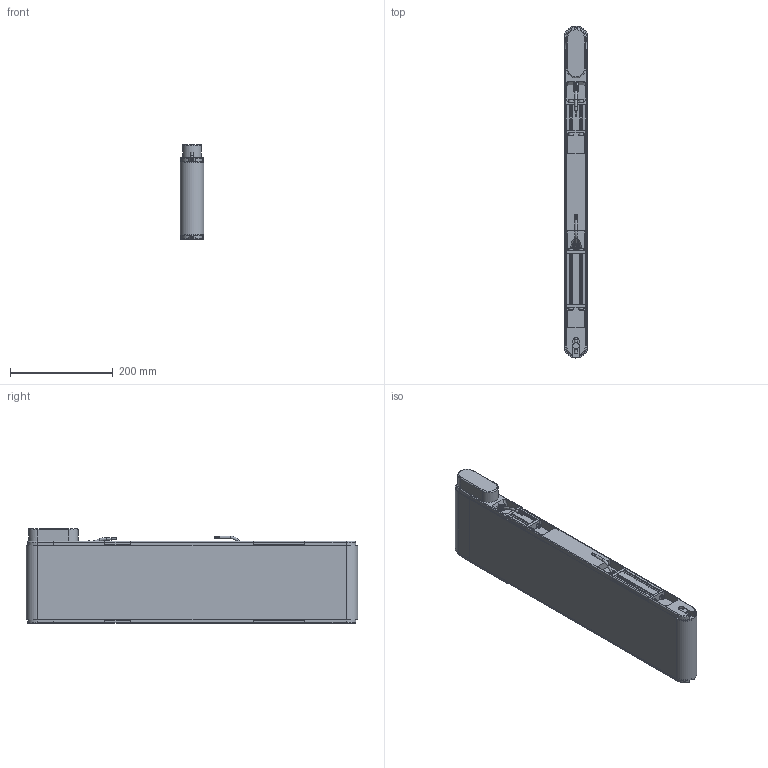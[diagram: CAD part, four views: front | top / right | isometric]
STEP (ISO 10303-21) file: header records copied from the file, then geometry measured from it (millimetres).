
FILE_DESCRIPTION(/* description */ (''),/* implementation_level */ '2;1');
FILE_NAME(/* name */ 'G:\DATEN\CAD\Förderband\Marketing\3D-Modelle (Standard)\FR-40-160-Q\FR-40-160-Q-DL-600-300-K.stp',/* time_stamp */ '2019-05-09T09:25:02+02:00',/* author */ ('melanie.ochs'),/* organization */ (''),/* preprocessor_version */ 'ST-DEVELOPER v17',/* originating_system */ 'Autodesk Inventor 2019',/* authorisation */ '');
FILE_SCHEMA (('CONFIG_CONTROL_DESIGN','PROCESS_PLANNING_SCHEMA'));
Length unit declared in the file: centimetre
Products named in the file (1): FR-40-160-Q-DL-600-300-K
Bounding box: 46.4 x 646.4 x 185 mm (x, y, z)
Volume: 3432804.9 mm3; surface area: 892086.7 mm2
Topology: 12 solids, 18 shells, 1400 faces, 3976 edges, 2737 vertices
Faces by surface type: plane 704, cylinder 505, cone 97, bspline 61, torus 33
Full cylindrical faces by diameter (mm): 1 x6, 1.5 x5, 3 x1, 3.242 x4, 4 x8, 4.3 x8, 4.917 x1, 5 x22, 5.5 x16, 6 x4, 6.5 x1, 6.773 x2, 6.917 x6, 8.3 x16, 8.5 x16, 8.773 x2, 10 x3, 11 x2, 12 x7, 20 x1, 25 x2, 28 x2, 28.01 x2, 30 x1, 44 x2
Entity records: 48508 total; most frequent: CARTESIAN_POINT 9850, ORIENTED_EDGE 7890, DIRECTION 7742, EDGE_CURVE 3945, AXIS2_PLACEMENT_3D 2797, VERTEX_POINT 2737, LINE 2148, VECTOR 2148
